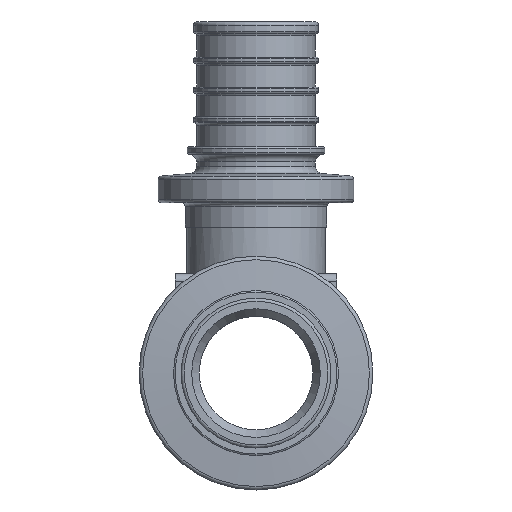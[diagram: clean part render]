
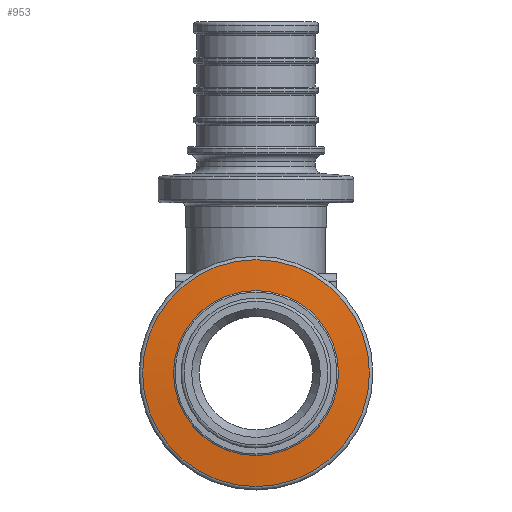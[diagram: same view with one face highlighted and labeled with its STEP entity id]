
A CAD part, front view. The second image highlights one B-rep face of the part: STEP entity #953.
In plain terms, the highlighted conical face has half-angle 85 degrees and reference radius 12.653 mm.
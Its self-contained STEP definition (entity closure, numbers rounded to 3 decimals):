
#953=ADVANCED_FACE('',(#4587,#4589),#4591,.T.);
#4587=FACE_OUTER_BOUND('',#4588,.T.);
#4588=EDGE_LOOP('',(#7079));
#4589=FACE_BOUND('',#4590,.T.);
#4590=EDGE_LOOP('',(#7080,#7081));
#4591=CONICAL_SURFACE('',#4592,12.653,1.484);
#4592=AXIS2_PLACEMENT_3D('',#4593,#4594,#4595);
#4593=CARTESIAN_POINT('',(0.,-23.995,0.));
#4594=DIRECTION('',(0.,1.,0.));
#4595=DIRECTION('',(0.,0.,-1.));
#7079=ORIENTED_EDGE('',*,*,#9243,.T.);
#7080=ORIENTED_EDGE('',*,*,#9238,.T.);
#7081=ORIENTED_EDGE('',*,*,#9240,.T.);
#9238=EDGE_CURVE('',#10262,#10260,#10263,.T.);
#9240=EDGE_CURVE('',#10260,#10262,#10265,.T.);
#9243=EDGE_CURVE('',#10270,#10270,#10271,.F.);
#10260=VERTEX_POINT('',#12370);
#10262=VERTEX_POINT('',#12375);
#10263=CIRCLE('',#12376,10.313);
#10265=CIRCLE('',#12384,10.313);
#10270=VERTEX_POINT('',#12398);
#10271=CIRCLE('',#12399,14.994);
#12370=CARTESIAN_POINT('',(-10.313,-24.199,0.));
#12375=CARTESIAN_POINT('',(0.,-24.199,-10.313));
#12376=AXIS2_PLACEMENT_3D('',#12377,#12378,#12379);
#12377=CARTESIAN_POINT('',(0.,-24.199,0.));
#12378=DIRECTION('',(0.,1.,0.));
#12379=DIRECTION('',(0.,0.,-1.));
#12384=AXIS2_PLACEMENT_3D('',#12385,#12386,#12387);
#12385=CARTESIAN_POINT('',(0.,-24.199,0.));
#12386=DIRECTION('',(0.,1.,0.));
#12387=DIRECTION('',(-1.,0.,0.));
#12398=CARTESIAN_POINT('',(0.,-23.79,-14.994));
#12399=AXIS2_PLACEMENT_3D('',#12400,#12401,#12402);
#12400=CARTESIAN_POINT('',(0.,-23.79,0.));
#12401=DIRECTION('',(0.,1.,0.));
#12402=DIRECTION('',(0.,0.,-1.));
